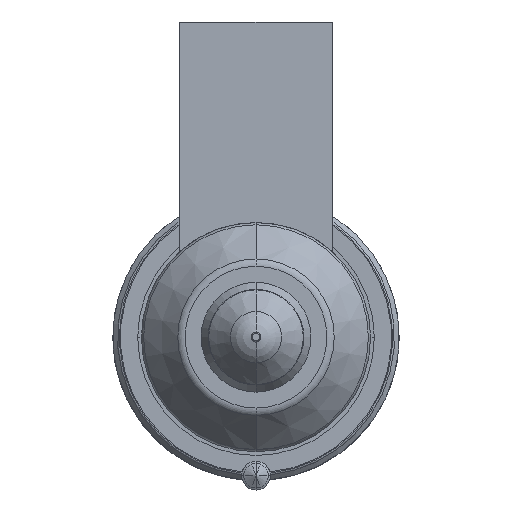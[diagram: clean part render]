
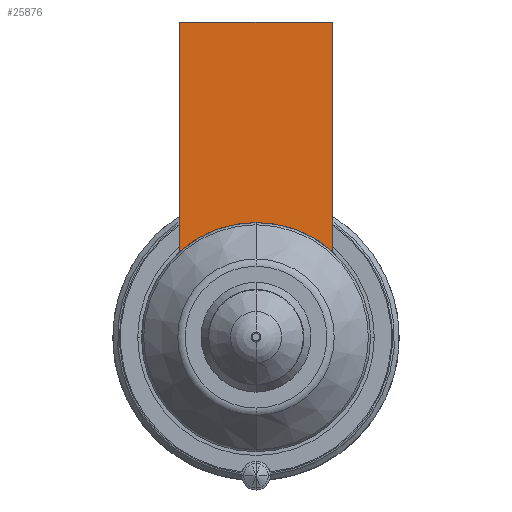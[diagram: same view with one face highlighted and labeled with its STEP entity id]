
A CAD part, front view. The second image highlights one B-rep face of the part: STEP entity #25876.
In plain terms, the highlighted planar face has unit normal (0, -1, 0).
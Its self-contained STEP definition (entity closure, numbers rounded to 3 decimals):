
#24958=DIRECTION('',(0.,0.,-1.));
#24959=VECTOR('',#24958,24.056);
#24960=CARTESIAN_POINT('',(-8.,-56.,33.));
#24961=LINE('',#24960,#24959);
#24998=DIRECTION('',(1.,0.,0.));
#24999=VECTOR('',#24998,16.);
#25000=CARTESIAN_POINT('',(-8.,-56.,33.));
#25001=LINE('',#25000,#24999);
#25005=CARTESIAN_POINT('',(0.,-56.,0.));
#25006=DIRECTION('',(0.,-1.,0.));
#25007=DIRECTION('',(0.667,0.,0.745));
#25008=AXIS2_PLACEMENT_3D('',#25005,#25006,#25007);
#25013=CARTESIAN_POINT('',(0.,-56.,0.));
#25014=DIRECTION('',(0.,-1.,0.));
#25015=DIRECTION('',(0.,0.,1.));
#25016=AXIS2_PLACEMENT_3D('',#25013,#25014,#25015);
#25049=DIRECTION('',(0.,0.,-1.));
#25050=VECTOR('',#25049,24.056);
#25051=CARTESIAN_POINT('',(8.,-56.,33.));
#25052=LINE('',#25051,#25050);
#25712=CARTESIAN_POINT('',(-8.,-56.,33.));
#25713=VERTEX_POINT('',#25712);
#25718=CARTESIAN_POINT('',(8.,-56.,33.));
#25719=VERTEX_POINT('',#25718);
#25722=CARTESIAN_POINT('',(-8.,-56.,8.944));
#25723=VERTEX_POINT('',#25722);
#25726=CARTESIAN_POINT('',(8.,-56.,8.944));
#25727=VERTEX_POINT('',#25726);
#25795=CARTESIAN_POINT('',(0.,-56.,12.));
#25796=VERTEX_POINT('',#25795);
#25861=CARTESIAN_POINT('',(-8.,-56.,33.));
#25862=DIRECTION('',(0.,-1.,0.));
#25863=DIRECTION('',(0.,0.,-1.));
#25864=AXIS2_PLACEMENT_3D('',#25861,#25862,#25863);
#25865=PLANE('',#25864);
#25866=ORIENTED_EDGE('',*,*,#25809,.F.);
#25868=ORIENTED_EDGE('',*,*,#25867,.T.);
#25870=ORIENTED_EDGE('',*,*,#25869,.T.);
#25872=ORIENTED_EDGE('',*,*,#25871,.T.);
#25873=ORIENTED_EDGE('',*,*,#25841,.T.);
#25874=EDGE_LOOP('',(#25866,#25868,#25870,#25872,#25873));
#25875=FACE_OUTER_BOUND('',#25874,.F.);
#25876=ADVANCED_FACE('',(#25875),#25865,.T.);
#25009=CIRCLE('',#25008,12.);
#25017=CIRCLE('',#25016,12.);
#25809=EDGE_CURVE('',#25713,#25723,#24961,.T.);
#25841=EDGE_CURVE('',#25796,#25723,#25017,.T.);
#25867=EDGE_CURVE('',#25713,#25719,#25001,.T.);
#25869=EDGE_CURVE('',#25719,#25727,#25052,.T.);
#25871=EDGE_CURVE('',#25727,#25796,#25009,.T.);
